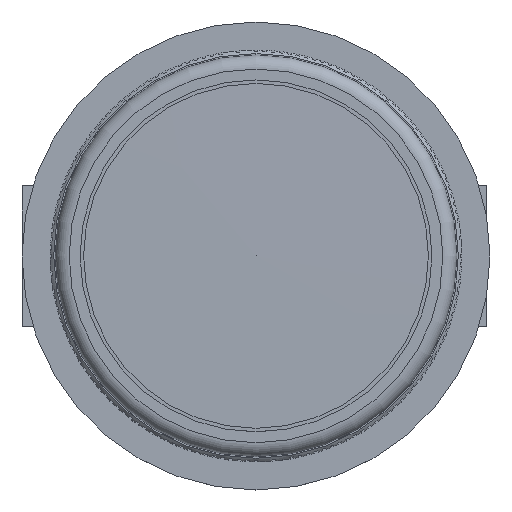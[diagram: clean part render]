
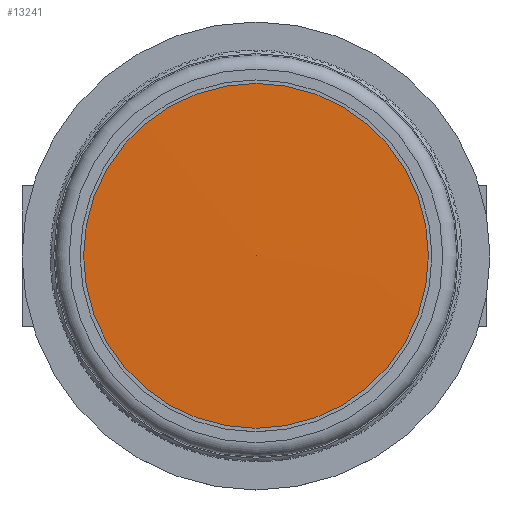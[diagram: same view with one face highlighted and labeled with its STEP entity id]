
A CAD part, top view. The second image highlights one B-rep face of the part: STEP entity #13241.
In plain terms, the highlighted conical face has half-angle 89.81 degrees and reference radius 12.25 mm.
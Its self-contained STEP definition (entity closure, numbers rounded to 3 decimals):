
#85=CONICAL_SURFACE('',#14362,12.25,1.567);
#2051=LINE('',#21897,#3460);
#3460=VECTOR('',#17636,12.25);
#4327=FACE_OUTER_BOUND('',#5009,.T.);
#5009=EDGE_LOOP('',(#12243,#12244,#12245));
#5419=CIRCLE('',#14363,24.501);
#6662=VERTEX_POINT('',#21894);
#6663=VERTEX_POINT('',#21896);
#8544=EDGE_CURVE('',#6662,#6662,#5419,.T.);
#8545=EDGE_CURVE('',#6662,#6663,#2051,.T.);
#12243=ORIENTED_EDGE('',*,*,#8544,.F.);
#12244=ORIENTED_EDGE('',*,*,#8545,.T.);
#12245=ORIENTED_EDGE('',*,*,#8545,.F.);
#13241=ADVANCED_FACE('',(#4327),#85,.T.);
#14362=AXIS2_PLACEMENT_3D('',#21893,#17632,#17633);
#14363=AXIS2_PLACEMENT_3D('',#21895,#17634,#17635);
#17632=DIRECTION('center_axis',(1.,0.,0.));
#17633=DIRECTION('ref_axis',(0.,1.,0.));
#17634=DIRECTION('center_axis',(1.,0.,0.));
#17635=DIRECTION('ref_axis',(0.,0.,-1.));
#17636=DIRECTION('',(-0.003,1.,0.));
#21893=CARTESIAN_POINT('Origin',(167.394,108.808,0.));
#21894=CARTESIAN_POINT('',(167.435,84.307,0.));
#21895=CARTESIAN_POINT('Origin',(167.435,108.808,0.));
#21896=CARTESIAN_POINT('',(167.353,108.808,0.));
#21897=CARTESIAN_POINT('',(167.394,96.558,0.));
